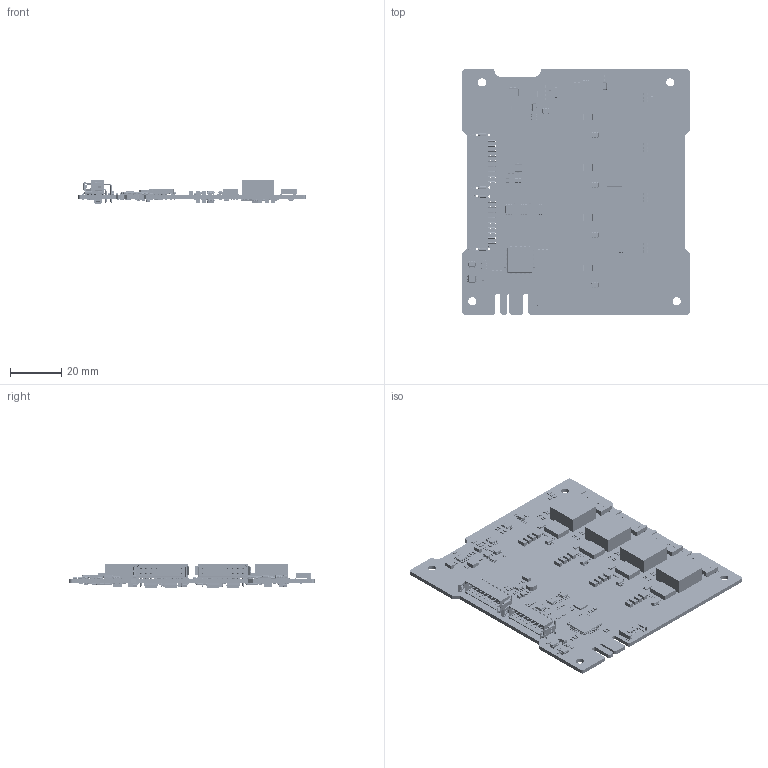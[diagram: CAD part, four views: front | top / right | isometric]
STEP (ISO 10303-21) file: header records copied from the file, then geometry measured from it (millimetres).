
FILE_DESCRIPTION((''),'2;1');
FILE_NAME('IMEPSV2_CU_V040_SW0002','2020-04-01T',('sjay'),(''),'PRO/ENGINEER BY PARAMETRIC TECHNOLOGY CORPORATION, 2015110','PRO/ENGINEER BY PARAMETRIC TECHNOLOGY CORPORATION, 2015110','');
FILE_SCHEMA(('CONFIG_CONTROL_DESIGN'));
Products named in the file (1): IMEPSV2_CU_V040_SW0002
Bounding box: 89 x 96 x 9.62 mm (x, y, z)
Volume: 19558.7 mm3; surface area: 26863.9 mm2
Topology: 1 solids, 1 shells, 17110 faces, 51495 edges, 33962 vertices
Faces by surface type: plane 10759, cylinder 5498, revolution 288, cone 264, extrusion 157, torus 72, sphere 72
Entity records: 592677 total; most frequent: CARTESIAN_POINT 116001, ORIENTED_EDGE 102814, DIRECTION 96890, EDGE_CURVE 51407, VECTOR 38660, LINE 38503, VERTEX_POINT 33962, AXIS2_PLACEMENT_3D 28971
